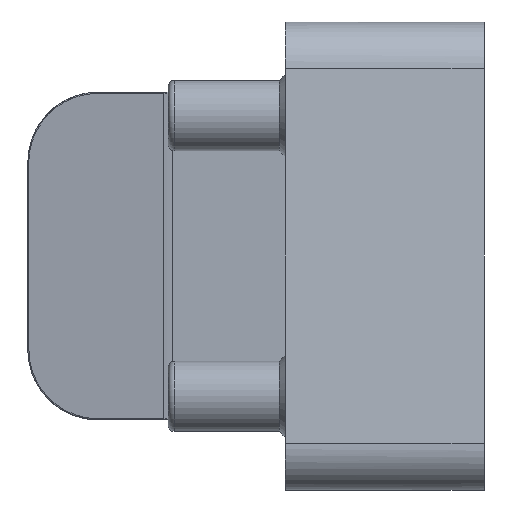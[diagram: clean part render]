
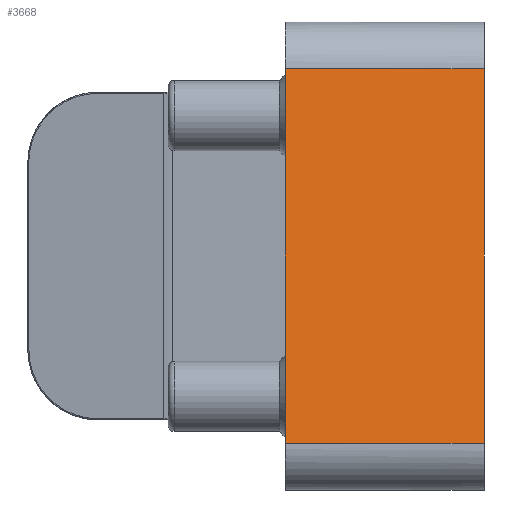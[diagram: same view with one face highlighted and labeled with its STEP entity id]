
A CAD part, left-side view. The second image highlights one B-rep face of the part: STEP entity #3668.
In plain terms, the highlighted planar face has unit normal (-0.943, -0.333, 0) as drawn and (0, 0.943, 0.333) by its records, which use the part's own axes.
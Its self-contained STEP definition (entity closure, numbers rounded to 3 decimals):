
#233 = CARTESIAN_POINT ( 'NONE',  ( 36., -6., 17. ) ) ;
#385 = VERTEX_POINT ( 'NONE', #663 ) ;
#389 = LINE ( 'NONE', #2654, #765 ) ;
#412 = VECTOR ( 'NONE', #433, 1000. ) ;
#433 = DIRECTION ( 'NONE',  ( 0., -0.333, 0.943 ) ) ;
#663 = CARTESIAN_POINT ( 'NONE',  ( 4., -6., 17. ) ) ;
#764 = ORIENTED_EDGE ( 'NONE', *, *, #2349, .T. ) ;
#765 = VECTOR ( 'NONE', #5598, 1000. ) ;
#781 = CARTESIAN_POINT ( 'NONE',  ( 4., 0., 0. ) ) ;
#819 = VECTOR ( 'NONE', #5188, 1000. ) ;
#855 = DIRECTION ( 'NONE',  ( 0., 0.333, -0.943 ) ) ;
#1022 = VERTEX_POINT ( 'NONE', #4359 ) ;
#1197 = ORIENTED_EDGE ( 'NONE', *, *, #2493, .T. ) ;
#1201 = AXIS2_PLACEMENT_3D ( 'NONE', #3902, #3021, #855 ) ;
#1788 = EDGE_CURVE ( 'NONE', #1022, #385, #3495, .T. ) ;
#1964 = CARTESIAN_POINT ( 'NONE',  ( 36., 0., 0. ) ) ;
#2173 = FACE_OUTER_BOUND ( 'NONE', #5222, .T. ) ;
#2349 = EDGE_CURVE ( 'NONE', #4826, #5554, #5090, .T. ) ;
#2493 = EDGE_CURVE ( 'NONE', #5554, #1022, #389, .T. ) ;
#2654 = CARTESIAN_POINT ( 'NONE',  ( 0., 0., 0. ) ) ;
#2867 = VECTOR ( 'NONE', #4606, 1000. ) ;
#3021 = DIRECTION ( 'NONE',  ( 0., -0.943, -0.333 ) ) ;
#3402 = ORIENTED_EDGE ( 'NONE', *, *, #4912, .T. ) ;
#3449 = PLANE ( 'NONE',  #1201 ) ;
#3495 = LINE ( 'NONE', #781, #412 ) ;
#3668 = ADVANCED_FACE ( 'NONE', ( #2173 ), #3449, .F. ) ;
#3902 = CARTESIAN_POINT ( 'NONE',  ( 0., 0., 0. ) ) ;
#4141 = CARTESIAN_POINT ( 'NONE',  ( 36., 0., 0. ) ) ;
#4359 = CARTESIAN_POINT ( 'NONE',  ( 4., 0., 0. ) ) ;
#4368 = LINE ( 'NONE', #4767, #819 ) ;
#4606 = DIRECTION ( 'NONE',  ( 0., 0.333, -0.943 ) ) ;
#4767 = CARTESIAN_POINT ( 'NONE',  ( 0., -6., 17. ) ) ;
#4826 = VERTEX_POINT ( 'NONE', #233 ) ;
#4912 = EDGE_CURVE ( 'NONE', #385, #4826, #4368, .T. ) ;
#5090 = LINE ( 'NONE', #1964, #2867 ) ;
#5188 = DIRECTION ( 'NONE',  ( 1., 0., 0. ) ) ;
#5222 = EDGE_LOOP ( 'NONE', ( #3402, #764, #1197, #5270 ) ) ;
#5270 = ORIENTED_EDGE ( 'NONE', *, *, #1788, .T. ) ;
#5554 = VERTEX_POINT ( 'NONE', #4141 ) ;
#5598 = DIRECTION ( 'NONE',  ( -1., 0., 0. ) ) ;
